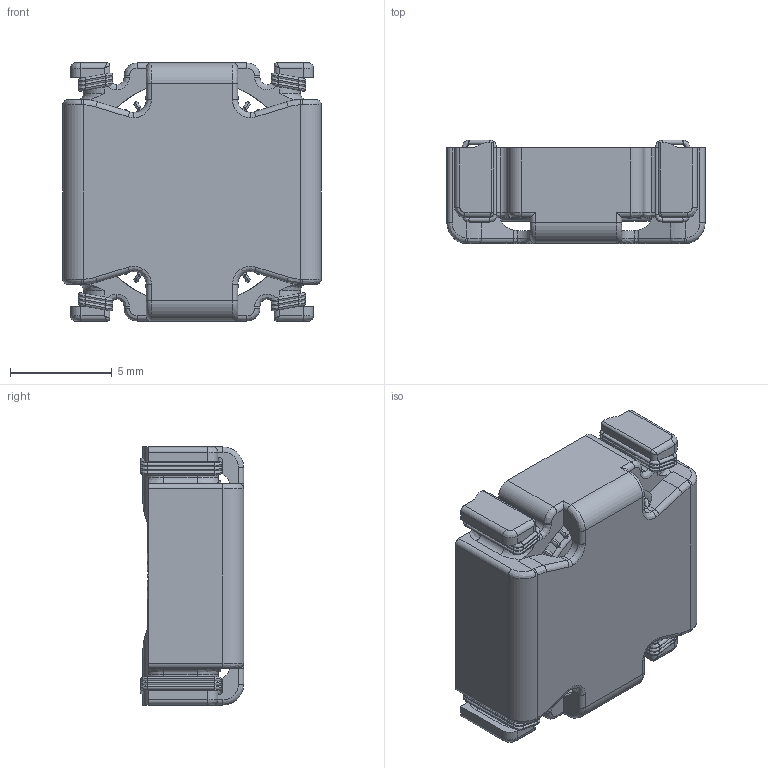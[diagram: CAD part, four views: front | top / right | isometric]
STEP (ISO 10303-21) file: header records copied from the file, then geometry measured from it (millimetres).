
FILE_DESCRIPTION (( 'STEP AP214' ), '1' );
FILE_NAME ('PA2746NL.STEP', '2017-03-03T01:16:29', ( '' ), ( '' ), 'SwSTEP 2.0', 'SolidWorks 2015', '' );
FILE_SCHEMA (( 'AUTOMOTIVE_DESIGN' ));
Length unit declared in the file: millimetre
Products named in the file (5): WIRE-2; WIRE_1; CORE_1; 043-1479.001_1; PA2746NL
Assembly tree (64 placements, depth 2):
  PA2746NL
    043-1479.001_1
    CORE_1
    WIRE_1  x50
    WIRE-2  x12
Bounding box: 12.7 x 5.08 x 12.7 mm (x, y, z)
Volume: 482.9 mm3; surface area: 1418.5 mm2
Topology: 64 solids, 64 shells, 1208 faces, 2547 edges, 1331 vertices
Faces by surface type: cylinder 586, bspline 562, plane 60
Entity records: 12173 total; most frequent: CARTESIAN_POINT 3327, ORIENTED_EDGE 1246, DIRECTION 1218, EDGE_CURVE 623, AXIS2_PLACEMENT_3D 482, VERTEX_POINT 371, UNCERTAINTY_MEASURE_WITH_UNIT 261, FILL_AREA_STYLE 256
